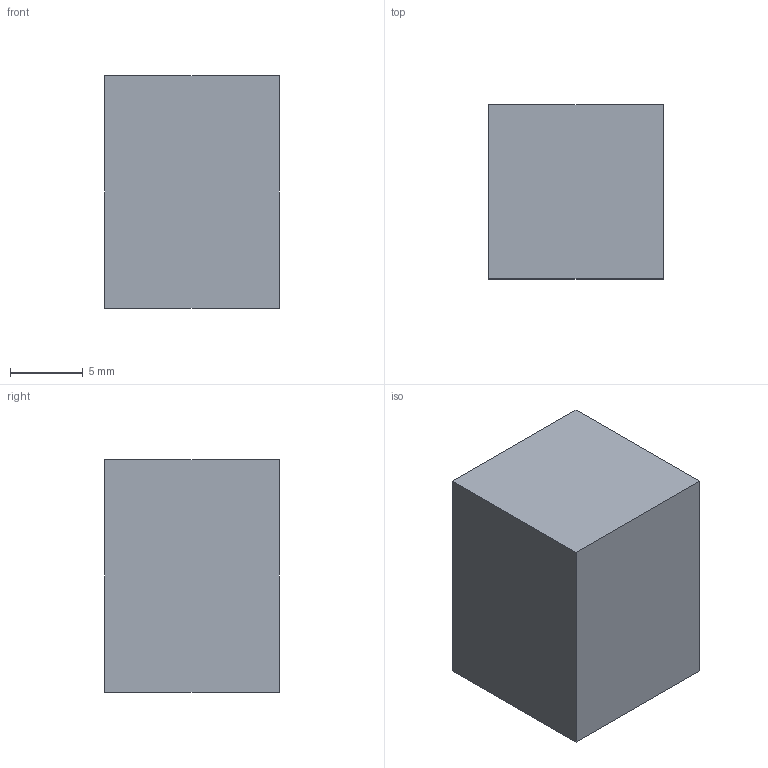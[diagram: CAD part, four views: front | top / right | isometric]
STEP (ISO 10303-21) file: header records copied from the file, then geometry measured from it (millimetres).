
FILE_DESCRIPTION(('Open CASCADE Model'),'2;1');
FILE_NAME('Open CASCADE Shape Model','2026-10-04T02:31:39',('Author'),( 'Open CASCADE'),'Open CASCADE STEP processor 8.0','Open CASCADE 8.0' ,'Unknown');
FILE_SCHEMA(('AUTOMOTIVE_DESIGN { 1 0 10303 214 1 1 1 1 }'));
Length unit declared in the file: millimetre
Products named in the file (1): Open CASCADE STEP translator 8.0 188
Bounding box: 12 x 12 x 16 mm (x, y, z)
Volume: 2304 mm3; surface area: 1056 mm2
Topology: 1 solids, 1 shells, 6 faces, 12 edges, 8 vertices
Faces by surface type: plane 6
Entity records: 322 total; most frequent: CARTESIAN_POINT 51, DIRECTION 50, LINE 36, VECTOR 36, ORIENTED_EDGE 24, PCURVE 24, DEFINITIONAL_REPRESENTATION 24, EDGE_CURVE 12
